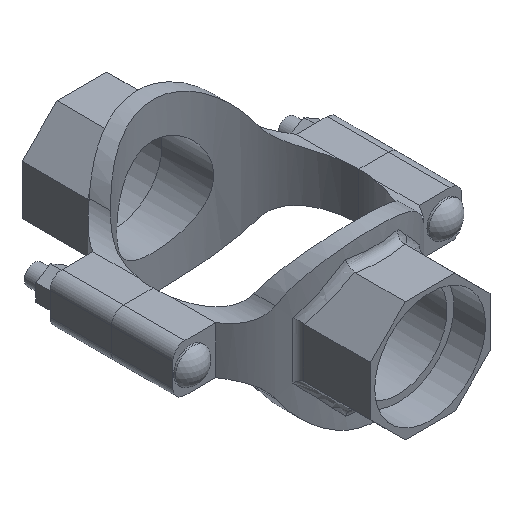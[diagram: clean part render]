
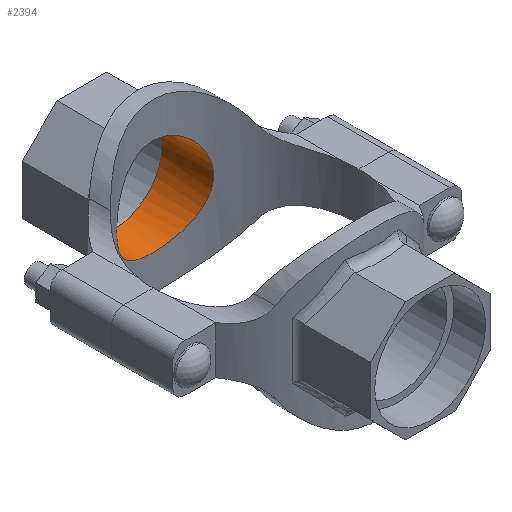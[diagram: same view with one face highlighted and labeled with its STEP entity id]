
A CAD part, isometric view. The second image highlights one B-rep face of the part: STEP entity #2394.
In plain terms, the highlighted cylindrical face has radius 38.894 mm (diameter 77.787 mm), a full revolution.
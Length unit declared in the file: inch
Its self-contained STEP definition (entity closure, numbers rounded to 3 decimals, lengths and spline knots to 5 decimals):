
#71=B_SPLINE_CURVE_WITH_KNOTS('',3,(#4055,#4056,#4057,#4058,#4059,#4060,
#4061,#4062,#4063,#4064,#4065,#4066,#4067,#4068,#4069,#4070,#4071,#4072,
#4073,#4074,#4075,#4076,#4077,#4078,#4079,#4080,#4081,#4082,#4083,#4084,
#4085,#4086,#4087,#4088,#4089,#4090,#4091,#4092,#4093,#4094,#4095,#4096,
#4097,#4098,#4099,#4100,#4101,#4102,#4103,#4104,#4105,#4106,#4107,#4108,
#4109,#4110,#4111,#4112,#4113,#4114,#4115,#4116,#4117,#4118,#4119,#4120),
 .UNSPECIFIED.,.T.,.F.,(4,2,2,2,2,2,2,2,2,2,2,2,2,2,2,2,2,2,2,2,2,2,2,2,
2,2,2,2,2,2,2,2,4),(0.,0.74639,1.49279,2.23918,
2.98558,3.73042,4.47526,5.2201,5.96494,
6.70978,7.45462,8.19946,8.9443,9.6907,
10.43709,11.18349,11.92988,12.67628,13.42267,
14.16907,14.91546,15.6603,16.40514,17.14998,
17.89482,18.63966,19.3845,20.12935,20.87419,
21.62058,22.36698,23.11337,23.85977),
 .UNSPECIFIED.);
#126=CYLINDRICAL_SURFACE('',#2625,1.53125);
#230=FACE_OUTER_BOUND('',#365,.T.);
#365=EDGE_LOOP('',(#1703,#1704,#1705,#1706));
#532=LINE('',#4054,#714);
#714=VECTOR('',#3016,1.53125);
#859=CIRCLE('',#2626,1.53125);
#1006=VERTEX_POINT('',#4051);
#1007=VERTEX_POINT('',#4053);
#1272=EDGE_CURVE('',#1006,#1006,#859,.T.);
#1273=EDGE_CURVE('',#1006,#1007,#532,.T.);
#1274=EDGE_CURVE('',#1007,#1007,#71,.T.);
#1703=ORIENTED_EDGE('',*,*,#1272,.F.);
#1704=ORIENTED_EDGE('',*,*,#1273,.T.);
#1705=ORIENTED_EDGE('',*,*,#1274,.F.);
#1706=ORIENTED_EDGE('',*,*,#1273,.F.);
#2394=ADVANCED_FACE('',(#230),#126,.F.);
#2625=AXIS2_PLACEMENT_3D('',#4050,#3012,#3013);
#2626=AXIS2_PLACEMENT_3D('',#4052,#3014,#3015);
#3012=DIRECTION('center_axis',(0.,-1.,0.));
#3013=DIRECTION('ref_axis',(-1.,0.,0.));
#3014=DIRECTION('center_axis',(0.,-1.,0.));
#3015=DIRECTION('ref_axis',(-1.,0.,0.));
#3016=DIRECTION('',(0.,-1.,0.));
#4050=CARTESIAN_POINT('Origin',(0.,4.5,0.));
#4051=CARTESIAN_POINT('',(1.53125,4.5,0.));
#4052=CARTESIAN_POINT('Origin',(0.,4.5,0.));
#4053=CARTESIAN_POINT('',(1.53125,2.86667,0.));
#4054=CARTESIAN_POINT('',(1.53125,4.5,0.));
#4055=CARTESIAN_POINT('Ctrl Pts',(1.53125,2.86667,0.));
#4056=CARTESIAN_POINT('Ctrl Pts',(1.53125,2.86667,-0.09795));
#4057=CARTESIAN_POINT('Ctrl Pts',(1.5217,2.87183,-0.19863));
#4058=CARTESIAN_POINT('Ctrl Pts',(1.48216,2.89244,-0.39777));
#4059=CARTESIAN_POINT('Ctrl Pts',(1.45219,2.90784,-0.49625));
#4060=CARTESIAN_POINT('Ctrl Pts',(1.37364,2.94576,-0.68428));
#4061=CARTESIAN_POINT('Ctrl Pts',(1.325,2.96826,-0.77401));
#4062=CARTESIAN_POINT('Ctrl Pts',(1.21316,3.0157,-0.93965));
#4063=CARTESIAN_POINT('Ctrl Pts',(1.14995,3.04059,-1.01556));
#4064=CARTESIAN_POINT('Ctrl Pts',(1.0157,3.08803,-1.14981));
#4065=CARTESIAN_POINT('Ctrl Pts',(0.93986,3.11232,-1.21301));
#4066=CARTESIAN_POINT('Ctrl Pts',(0.77419,3.15761,-1.3249));
#4067=CARTESIAN_POINT('Ctrl Pts',(0.68436,3.17857,-1.3736));
#4068=CARTESIAN_POINT('Ctrl Pts',(0.49612,3.21334,-1.45224));
#4069=CARTESIAN_POINT('Ctrl Pts',(0.39754,3.22714,-1.48223));
#4070=CARTESIAN_POINT('Ctrl Pts',(0.19836,3.24548,-1.52174));
#4071=CARTESIAN_POINT('Ctrl Pts',(0.09775,3.25,-1.53125));
#4072=CARTESIAN_POINT('Ctrl Pts',(-0.09775,3.25,-1.53125));
#4073=CARTESIAN_POINT('Ctrl Pts',(-0.19836,3.24548,-1.52174));
#4074=CARTESIAN_POINT('Ctrl Pts',(-0.39754,3.22714,-1.48223));
#4075=CARTESIAN_POINT('Ctrl Pts',(-0.49612,3.21334,-1.45224));
#4076=CARTESIAN_POINT('Ctrl Pts',(-0.68436,3.17857,-1.3736));
#4077=CARTESIAN_POINT('Ctrl Pts',(-0.77419,3.15761,-1.3249));
#4078=CARTESIAN_POINT('Ctrl Pts',(-0.93986,3.11232,-1.21301));
#4079=CARTESIAN_POINT('Ctrl Pts',(-1.0157,3.08803,-1.14981));
#4080=CARTESIAN_POINT('Ctrl Pts',(-1.14995,3.04059,-1.01556));
#4081=CARTESIAN_POINT('Ctrl Pts',(-1.21316,3.0157,-0.93965));
#4082=CARTESIAN_POINT('Ctrl Pts',(-1.325,2.96826,-0.77401));
#4083=CARTESIAN_POINT('Ctrl Pts',(-1.37364,2.94576,-0.68428));
#4084=CARTESIAN_POINT('Ctrl Pts',(-1.45219,2.90784,-0.49625));
#4085=CARTESIAN_POINT('Ctrl Pts',(-1.48216,2.89244,-0.39777));
#4086=CARTESIAN_POINT('Ctrl Pts',(-1.5217,2.87183,-0.19863));
#4087=CARTESIAN_POINT('Ctrl Pts',(-1.53125,2.86667,-0.09795));
#4088=CARTESIAN_POINT('Ctrl Pts',(-1.53125,2.86667,0.09795));
#4089=CARTESIAN_POINT('Ctrl Pts',(-1.5217,2.87183,0.19863));
#4090=CARTESIAN_POINT('Ctrl Pts',(-1.48216,2.89244,0.39777));
#4091=CARTESIAN_POINT('Ctrl Pts',(-1.45219,2.90784,0.49625));
#4092=CARTESIAN_POINT('Ctrl Pts',(-1.37364,2.94576,0.68428));
#4093=CARTESIAN_POINT('Ctrl Pts',(-1.325,2.96826,0.77401));
#4094=CARTESIAN_POINT('Ctrl Pts',(-1.21316,3.0157,0.93965));
#4095=CARTESIAN_POINT('Ctrl Pts',(-1.14995,3.04059,1.01556));
#4096=CARTESIAN_POINT('Ctrl Pts',(-1.0157,3.08803,1.14981));
#4097=CARTESIAN_POINT('Ctrl Pts',(-0.93986,3.11232,1.21301));
#4098=CARTESIAN_POINT('Ctrl Pts',(-0.77419,3.15761,1.3249));
#4099=CARTESIAN_POINT('Ctrl Pts',(-0.68436,3.17857,1.3736));
#4100=CARTESIAN_POINT('Ctrl Pts',(-0.49612,3.21334,1.45224));
#4101=CARTESIAN_POINT('Ctrl Pts',(-0.39754,3.22714,1.48223));
#4102=CARTESIAN_POINT('Ctrl Pts',(-0.19836,3.24548,1.52174));
#4103=CARTESIAN_POINT('Ctrl Pts',(-0.09775,3.25,1.53125));
#4104=CARTESIAN_POINT('Ctrl Pts',(0.09775,3.25,1.53125));
#4105=CARTESIAN_POINT('Ctrl Pts',(0.19836,3.24548,1.52174));
#4106=CARTESIAN_POINT('Ctrl Pts',(0.39754,3.22714,1.48223));
#4107=CARTESIAN_POINT('Ctrl Pts',(0.49612,3.21334,1.45224));
#4108=CARTESIAN_POINT('Ctrl Pts',(0.68436,3.17857,1.3736));
#4109=CARTESIAN_POINT('Ctrl Pts',(0.77419,3.15761,1.3249));
#4110=CARTESIAN_POINT('Ctrl Pts',(0.93986,3.11232,1.21301));
#4111=CARTESIAN_POINT('Ctrl Pts',(1.0157,3.08803,1.14981));
#4112=CARTESIAN_POINT('Ctrl Pts',(1.14995,3.04059,1.01556));
#4113=CARTESIAN_POINT('Ctrl Pts',(1.21316,3.0157,0.93965));
#4114=CARTESIAN_POINT('Ctrl Pts',(1.325,2.96826,0.77401));
#4115=CARTESIAN_POINT('Ctrl Pts',(1.37364,2.94576,0.68428));
#4116=CARTESIAN_POINT('Ctrl Pts',(1.45219,2.90784,0.49625));
#4117=CARTESIAN_POINT('Ctrl Pts',(1.48216,2.89244,0.39777));
#4118=CARTESIAN_POINT('Ctrl Pts',(1.5217,2.87183,0.19863));
#4119=CARTESIAN_POINT('Ctrl Pts',(1.53125,2.86667,0.09795));
#4120=CARTESIAN_POINT('Ctrl Pts',(1.53125,2.86667,0.));
